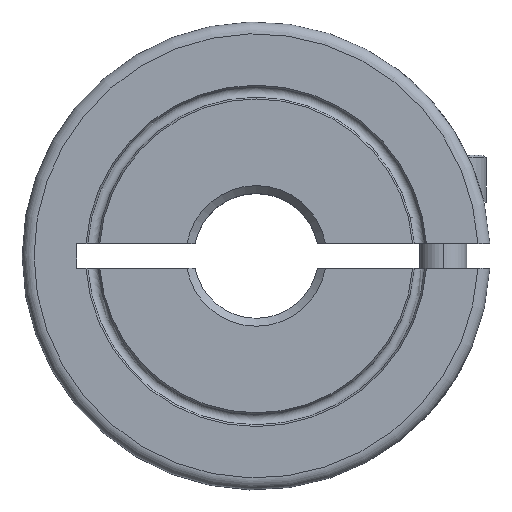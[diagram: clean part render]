
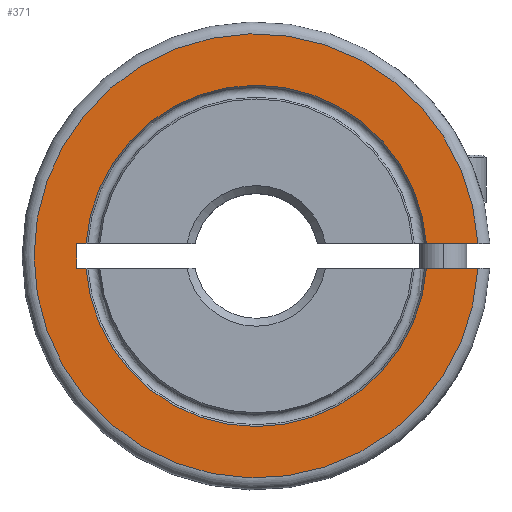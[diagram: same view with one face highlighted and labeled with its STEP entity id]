
A CAD part, top view. The second image highlights one B-rep face of the part: STEP entity #371.
In plain terms, the highlighted planar face has unit normal (0, 0, 1).
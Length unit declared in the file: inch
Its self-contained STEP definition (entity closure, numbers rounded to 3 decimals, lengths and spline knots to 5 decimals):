
#10 = DIRECTION ( 'NONE',  ( 0., 0., 1. ) ) ;
#34 = AXIS2_PLACEMENT_3D ( 'NONE', #158, #10, #1448 ) ;
#119 = VERTEX_POINT ( 'NONE', #1002 ) ;
#120 = CARTESIAN_POINT ( 'NONE',  ( 0.59055, -0.0315, 0.15748 ) ) ;
#155 = LINE ( 'NONE', #1199, #1104 ) ;
#158 = CARTESIAN_POINT ( 'NONE',  ( 0., 0., 0.15748 ) ) ;
#185 = DIRECTION ( 'NONE',  ( 0., -1., 0. ) ) ;
#235 = VERTEX_POINT ( 'NONE', #1696 ) ;
#370 = DIRECTION ( 'NONE',  ( 1., 0., 0. ) ) ;
#371 = ADVANCED_FACE ( 'NONE', ( #531 ), #455, .T. ) ;
#387 = CARTESIAN_POINT ( 'NONE',  ( 0., 0., 0.15748 ) ) ;
#443 = CIRCLE ( 'NONE', #1794, 0.56055 ) ;
#455 = PLANE ( 'NONE',  #34 ) ;
#492 = ORIENTED_EDGE ( 'NONE', *, *, #1606, .F. ) ;
#516 = DIRECTION ( 'NONE',  ( -1., 0., 0. ) ) ;
#525 = DIRECTION ( 'NONE',  ( 1., 0., 0. ) ) ;
#526 = CIRCLE ( 'NONE', #1128, 0.43071 ) ;
#530 = CARTESIAN_POINT ( 'NONE',  ( 0., 0., 0.15748 ) ) ;
#531 = FACE_OUTER_BOUND ( 'NONE', #544, .T. ) ;
#544 = EDGE_LOOP ( 'NONE', ( #1136, #610, #1706, #922, #1685, #492, #1845, #1356 ) ) ;
#553 = VECTOR ( 'NONE', #1453, 39.37008 ) ;
#570 = LINE ( 'NONE', #1716, #1521 ) ;
#610 = ORIENTED_EDGE ( 'NONE', *, *, #1472, .T. ) ;
#645 = EDGE_CURVE ( 'NONE', #1482, #1067, #1724, .T. ) ;
#657 = DIRECTION ( 'NONE',  ( 1., 0., 0. ) ) ;
#718 = EDGE_CURVE ( 'NONE', #1530, #932, #975, .T. ) ;
#871 = VERTEX_POINT ( 'NONE', #1725 ) ;
#889 = CARTESIAN_POINT ( 'NONE',  ( 0., 0., 0.15748 ) ) ;
#922 = ORIENTED_EDGE ( 'NONE', *, *, #1349, .F. ) ;
#928 = VECTOR ( 'NONE', #1000, 39.37008 ) ;
#930 = CARTESIAN_POINT ( 'NONE',  ( 0.59055, -0.0315, 0.15748 ) ) ;
#932 = VERTEX_POINT ( 'NONE', #1339 ) ;
#975 = LINE ( 'NONE', #120, #928 ) ;
#1000 = DIRECTION ( 'NONE',  ( 1., 0., 0. ) ) ;
#1002 = CARTESIAN_POINT ( 'NONE',  ( -0.45276, -0.0315, 0.15748 ) ) ;
#1067 = VERTEX_POINT ( 'NONE', #1078 ) ;
#1070 = DIRECTION ( 'NONE',  ( 1., 0., 0. ) ) ;
#1078 = CARTESIAN_POINT ( 'NONE',  ( -0.42955, 0.0315, 0.15748 ) ) ;
#1104 = VECTOR ( 'NONE', #516, 39.37008 ) ;
#1128 = AXIS2_PLACEMENT_3D ( 'NONE', #530, #1518, #370 ) ;
#1136 = ORIENTED_EDGE ( 'NONE', *, *, #1296, .F. ) ;
#1191 = DIRECTION ( 'NONE',  ( 0., 0., 1. ) ) ;
#1199 = CARTESIAN_POINT ( 'NONE',  ( 0.59055, 0.0315, 0.15748 ) ) ;
#1285 = VECTOR ( 'NONE', #1070, 39.37008 ) ;
#1296 = EDGE_CURVE ( 'NONE', #1751, #1482, #1722, .T. ) ;
#1339 = CARTESIAN_POINT ( 'NONE',  ( 0.55967, -0.0315, 0.15748 ) ) ;
#1349 = EDGE_CURVE ( 'NONE', #871, #1530, #526, .T. ) ;
#1356 = ORIENTED_EDGE ( 'NONE', *, *, #645, .F. ) ;
#1377 = DIRECTION ( 'NONE',  ( 0., 0., 1. ) ) ;
#1444 = EDGE_CURVE ( 'NONE', #119, #871, #1608, .T. ) ;
#1448 = DIRECTION ( 'NONE',  ( 1., 0., 0. ) ) ;
#1453 = DIRECTION ( 'NONE',  ( -1., 0., 0. ) ) ;
#1472 = EDGE_CURVE ( 'NONE', #1751, #932, #443, .T. ) ;
#1482 = VERTEX_POINT ( 'NONE', #1589 ) ;
#1518 = DIRECTION ( 'NONE',  ( 0., 0., 1. ) ) ;
#1521 = VECTOR ( 'NONE', #185, 39.37008 ) ;
#1530 = VERTEX_POINT ( 'NONE', #1542 ) ;
#1542 = CARTESIAN_POINT ( 'NONE',  ( 0.42955, -0.0315, 0.15748 ) ) ;
#1589 = CARTESIAN_POINT ( 'NONE',  ( 0.42955, 0.0315, 0.15748 ) ) ;
#1606 = EDGE_CURVE ( 'NONE', #235, #119, #570, .T. ) ;
#1608 = LINE ( 'NONE', #930, #1285 ) ;
#1641 = CARTESIAN_POINT ( 'NONE',  ( 0.55967, 0.0315, 0.15748 ) ) ;
#1650 = AXIS2_PLACEMENT_3D ( 'NONE', #387, #1377, #525 ) ;
#1685 = ORIENTED_EDGE ( 'NONE', *, *, #1444, .F. ) ;
#1696 = CARTESIAN_POINT ( 'NONE',  ( -0.45276, 0.0315, 0.15748 ) ) ;
#1706 = ORIENTED_EDGE ( 'NONE', *, *, #718, .F. ) ;
#1716 = CARTESIAN_POINT ( 'NONE',  ( -0.45276, 0.0315, 0.15748 ) ) ;
#1722 = LINE ( 'NONE', #1748, #553 ) ;
#1724 = CIRCLE ( 'NONE', #1650, 0.43071 ) ;
#1725 = CARTESIAN_POINT ( 'NONE',  ( -0.42955, -0.0315, 0.15748 ) ) ;
#1748 = CARTESIAN_POINT ( 'NONE',  ( 0.59055, 0.0315, 0.15748 ) ) ;
#1751 = VERTEX_POINT ( 'NONE', #1641 ) ;
#1764 = EDGE_CURVE ( 'NONE', #1067, #235, #155, .T. ) ;
#1794 = AXIS2_PLACEMENT_3D ( 'NONE', #889, #1191, #657 ) ;
#1845 = ORIENTED_EDGE ( 'NONE', *, *, #1764, .F. ) ;
